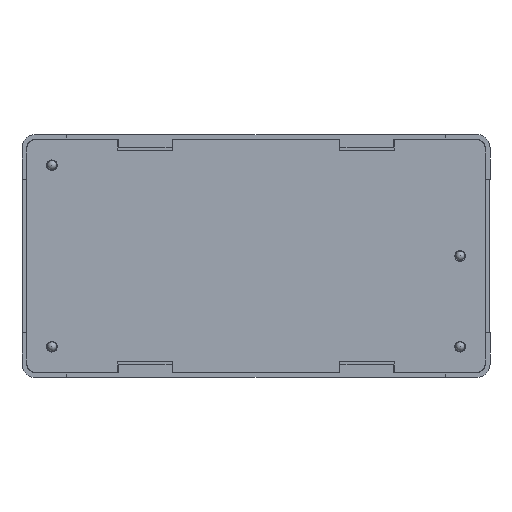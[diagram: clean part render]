
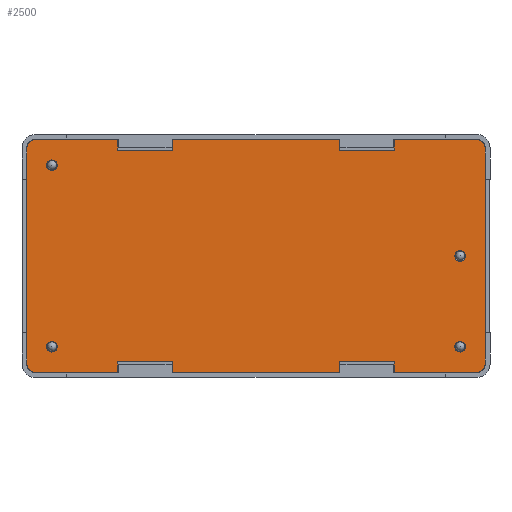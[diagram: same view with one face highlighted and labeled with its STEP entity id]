
A CAD part, top view. The second image highlights one B-rep face of the part: STEP entity #2500.
In plain terms, the highlighted planar face has unit normal (0, 0, 1).
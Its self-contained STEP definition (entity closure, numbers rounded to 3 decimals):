
#233=LINE('',#3896,#519);
#255=LINE('',#3949,#541);
#260=LINE('',#3962,#546);
#268=LINE('',#3979,#554);
#271=LINE('',#3984,#557);
#273=LINE('',#3988,#559);
#281=LINE('',#4005,#567);
#284=LINE('',#4010,#570);
#286=LINE('',#4014,#572);
#287=LINE('',#4016,#573);
#288=LINE('',#4018,#574);
#296=LINE('',#4035,#582);
#305=LINE('',#4052,#591);
#307=LINE('',#4056,#593);
#309=LINE('',#4060,#595);
#311=LINE('',#4064,#597);
#313=LINE('',#4068,#599);
#314=LINE('',#4070,#600);
#315=LINE('',#4072,#601);
#316=LINE('',#4074,#602);
#519=VECTOR('',#3208,24.1);
#541=VECTOR('',#3244,24.1);
#546=VECTOR('',#3259,9.15);
#554=VECTOR('',#3273,1.2);
#557=VECTOR('',#3278,6.2);
#559=VECTOR('',#3282,1.2);
#567=VECTOR('',#3296,1.2);
#570=VECTOR('',#3301,6.2);
#572=VECTOR('',#3305,1.2);
#573=VECTOR('',#3308,18.6);
#574=VECTOR('',#3311,9.15);
#582=VECTOR('',#3325,1.2);
#591=VECTOR('',#3340,1.2);
#593=VECTOR('',#3344,6.2);
#595=VECTOR('',#3348,1.2);
#597=VECTOR('',#3352,6.2);
#599=VECTOR('',#3356,1.2);
#600=VECTOR('',#3359,9.15);
#601=VECTOR('',#3362,9.15);
#602=VECTOR('',#3365,18.6);
#703=PLANE('',#2694);
#721=FACE_BOUND('',#1041,.T.);
#722=FACE_BOUND('',#1042,.T.);
#723=FACE_BOUND('',#1043,.T.);
#724=FACE_BOUND('',#1044,.T.);
#887=FACE_OUTER_BOUND('',#1040,.T.);
#1040=EDGE_LOOP('',(#2329,#2330,#2331,#2332,#2333,#2334,#2335,#2336,#2337,
#2338,#2339,#2340,#2341,#2342,#2343,#2344,#2345,#2346,#2347,#2348,#2349,
#2350,#2351,#2352));
#1041=EDGE_LOOP('',(#2353));
#1042=EDGE_LOOP('',(#2354));
#1043=EDGE_LOOP('',(#2355));
#1044=EDGE_LOOP('',(#2356));
#1080=CIRCLE('',#2643,0.6);
#1082=CIRCLE('',#2646,0.6);
#1084=CIRCLE('',#2649,0.6);
#1086=CIRCLE('',#2652,0.6);
#1087=CIRCLE('',#2654,1.);
#1092=CIRCLE('',#2662,1.);
#1093=CIRCLE('',#2665,1.);
#1094=CIRCLE('',#2667,1.);
#1248=VERTEX_POINT('',#3865);
#1250=VERTEX_POINT('',#3870);
#1252=VERTEX_POINT('',#3875);
#1254=VERTEX_POINT('',#3880);
#1255=VERTEX_POINT('',#3883);
#1256=VERTEX_POINT('',#3884);
#1260=VERTEX_POINT('',#3894);
#1282=VERTEX_POINT('',#3942);
#1283=VERTEX_POINT('',#3943);
#1284=VERTEX_POINT('',#3948);
#1285=VERTEX_POINT('',#3952);
#1286=VERTEX_POINT('',#3956);
#1287=VERTEX_POINT('',#3960);
#1292=VERTEX_POINT('',#3976);
#1293=VERTEX_POINT('',#3978);
#1294=VERTEX_POINT('',#3982);
#1295=VERTEX_POINT('',#3986);
#1300=VERTEX_POINT('',#4002);
#1301=VERTEX_POINT('',#4004);
#1302=VERTEX_POINT('',#4008);
#1303=VERTEX_POINT('',#4012);
#1308=VERTEX_POINT('',#4032);
#1309=VERTEX_POINT('',#4034);
#1314=VERTEX_POINT('',#4050);
#1315=VERTEX_POINT('',#4054);
#1316=VERTEX_POINT('',#4058);
#1317=VERTEX_POINT('',#4062);
#1318=VERTEX_POINT('',#4066);
#1556=EDGE_CURVE('',#1248,#1248,#1080,.T.);
#1558=EDGE_CURVE('',#1250,#1250,#1082,.T.);
#1560=EDGE_CURVE('',#1252,#1252,#1084,.T.);
#1562=EDGE_CURVE('',#1254,#1254,#1086,.T.);
#1563=EDGE_CURVE('',#1255,#1256,#1087,.T.);
#1569=EDGE_CURVE('',#1260,#1255,#233,.T.);
#1592=EDGE_CURVE('',#1282,#1283,#1092,.T.);
#1595=EDGE_CURVE('',#1283,#1284,#255,.T.);
#1597=EDGE_CURVE('',#1284,#1285,#1093,.T.);
#1599=EDGE_CURVE('',#1286,#1260,#1094,.T.);
#1602=EDGE_CURVE('',#1287,#1286,#260,.T.);
#1610=EDGE_CURVE('',#1293,#1292,#268,.T.);
#1613=EDGE_CURVE('',#1292,#1294,#271,.T.);
#1615=EDGE_CURVE('',#1294,#1295,#273,.T.);
#1623=EDGE_CURVE('',#1301,#1300,#281,.T.);
#1626=EDGE_CURVE('',#1300,#1302,#284,.T.);
#1628=EDGE_CURVE('',#1302,#1303,#286,.T.);
#1629=EDGE_CURVE('',#1301,#1295,#287,.T.);
#1630=EDGE_CURVE('',#1293,#1282,#288,.T.);
#1638=EDGE_CURVE('',#1309,#1308,#296,.T.);
#1647=EDGE_CURVE('',#1287,#1314,#305,.T.);
#1649=EDGE_CURVE('',#1314,#1315,#307,.T.);
#1651=EDGE_CURVE('',#1315,#1316,#309,.T.);
#1653=EDGE_CURVE('',#1308,#1317,#311,.T.);
#1655=EDGE_CURVE('',#1317,#1318,#313,.T.);
#1656=EDGE_CURVE('',#1285,#1318,#314,.T.);
#1657=EDGE_CURVE('',#1256,#1303,#315,.T.);
#1658=EDGE_CURVE('',#1309,#1316,#316,.T.);
#2329=ORIENTED_EDGE('',*,*,#1563,.F.);
#2330=ORIENTED_EDGE('',*,*,#1569,.F.);
#2331=ORIENTED_EDGE('',*,*,#1599,.F.);
#2332=ORIENTED_EDGE('',*,*,#1602,.F.);
#2333=ORIENTED_EDGE('',*,*,#1647,.T.);
#2334=ORIENTED_EDGE('',*,*,#1649,.T.);
#2335=ORIENTED_EDGE('',*,*,#1651,.T.);
#2336=ORIENTED_EDGE('',*,*,#1658,.F.);
#2337=ORIENTED_EDGE('',*,*,#1638,.T.);
#2338=ORIENTED_EDGE('',*,*,#1653,.T.);
#2339=ORIENTED_EDGE('',*,*,#1655,.T.);
#2340=ORIENTED_EDGE('',*,*,#1656,.F.);
#2341=ORIENTED_EDGE('',*,*,#1597,.F.);
#2342=ORIENTED_EDGE('',*,*,#1595,.F.);
#2343=ORIENTED_EDGE('',*,*,#1592,.F.);
#2344=ORIENTED_EDGE('',*,*,#1630,.F.);
#2345=ORIENTED_EDGE('',*,*,#1610,.T.);
#2346=ORIENTED_EDGE('',*,*,#1613,.T.);
#2347=ORIENTED_EDGE('',*,*,#1615,.T.);
#2348=ORIENTED_EDGE('',*,*,#1629,.F.);
#2349=ORIENTED_EDGE('',*,*,#1623,.T.);
#2350=ORIENTED_EDGE('',*,*,#1626,.T.);
#2351=ORIENTED_EDGE('',*,*,#1628,.T.);
#2352=ORIENTED_EDGE('',*,*,#1657,.F.);
#2353=ORIENTED_EDGE('',*,*,#1556,.T.);
#2354=ORIENTED_EDGE('',*,*,#1558,.T.);
#2355=ORIENTED_EDGE('',*,*,#1560,.T.);
#2356=ORIENTED_EDGE('',*,*,#1562,.T.);
#2500=ADVANCED_FACE('',(#887,#721,#722,#723,#724),#703,.T.);
#2643=AXIS2_PLACEMENT_3D('',#3866,#3176,#3177);
#2646=AXIS2_PLACEMENT_3D('',#3871,#3182,#3183);
#2649=AXIS2_PLACEMENT_3D('',#3876,#3188,#3189);
#2652=AXIS2_PLACEMENT_3D('',#3881,#3194,#3195);
#2654=AXIS2_PLACEMENT_3D('',#3885,#3198,#3199);
#2662=AXIS2_PLACEMENT_3D('',#3944,#3238,#3239);
#2665=AXIS2_PLACEMENT_3D('',#3953,#3248,#3249);
#2667=AXIS2_PLACEMENT_3D('',#3957,#3253,#3254);
#2694=AXIS2_PLACEMENT_3D('',#4075,#3366,#3367);
#3176=DIRECTION('center_axis',(0.,0.,-1.));
#3177=DIRECTION('ref_axis',(1.,0.,0.));
#3182=DIRECTION('center_axis',(0.,0.,-1.));
#3183=DIRECTION('ref_axis',(1.,0.,0.));
#3188=DIRECTION('center_axis',(0.,0.,-1.));
#3189=DIRECTION('ref_axis',(1.,0.,0.));
#3194=DIRECTION('center_axis',(0.,0.,-1.));
#3195=DIRECTION('ref_axis',(1.,0.,0.));
#3198=DIRECTION('center_axis',(0.,0.,-1.));
#3199=DIRECTION('ref_axis',(0.707,0.707,0.));
#3208=DIRECTION('',(1.,0.,0.));
#3238=DIRECTION('center_axis',(0.,0.,-1.));
#3239=DIRECTION('ref_axis',(0.707,-0.707,0.));
#3244=DIRECTION('',(-1.,0.,0.));
#3248=DIRECTION('center_axis',(0.,0.,-1.));
#3249=DIRECTION('ref_axis',(-0.707,-0.707,0.));
#3253=DIRECTION('center_axis',(0.,0.,-1.));
#3254=DIRECTION('ref_axis',(-0.707,0.707,0.));
#3259=DIRECTION('',(0.,1.,0.));
#3273=DIRECTION('',(-1.,0.,0.));
#3278=DIRECTION('',(0.,1.,0.));
#3282=DIRECTION('',(1.,0.,0.));
#3296=DIRECTION('',(-1.,0.,0.));
#3301=DIRECTION('',(0.,1.,0.));
#3305=DIRECTION('',(1.,0.,0.));
#3308=DIRECTION('',(0.,-1.,0.));
#3311=DIRECTION('',(0.,-1.,0.));
#3325=DIRECTION('',(1.,0.,0.));
#3340=DIRECTION('',(1.,0.,0.));
#3344=DIRECTION('',(0.,-1.,0.));
#3348=DIRECTION('',(-1.,0.,0.));
#3352=DIRECTION('',(0.,-1.,0.));
#3356=DIRECTION('',(-1.,0.,0.));
#3359=DIRECTION('',(0.,1.,0.));
#3362=DIRECTION('',(0.,-1.,0.));
#3365=DIRECTION('',(0.,1.,0.));
#3366=DIRECTION('center_axis',(0.,0.,1.));
#3367=DIRECTION('ref_axis',(1.,0.,0.));
#3865=CARTESIAN_POINT('',(0.6,22.86,1.));
#3866=CARTESIAN_POINT('Origin',(0.,22.86,1.));
#3870=CARTESIAN_POINT('',(-9.56,-22.86,1.));
#3871=CARTESIAN_POINT('Origin',(-10.16,-22.86,1.));
#3875=CARTESIAN_POINT('',(10.76,-22.86,1.));
#3876=CARTESIAN_POINT('Origin',(10.16,-22.86,1.));
#3880=CARTESIAN_POINT('',(10.76,22.86,1.));
#3881=CARTESIAN_POINT('Origin',(10.16,22.86,1.));
#3883=CARTESIAN_POINT('',(12.05,25.65,1.));
#3884=CARTESIAN_POINT('',(13.05,24.65,1.));
#3885=CARTESIAN_POINT('Origin',(12.05,24.65,1.));
#3894=CARTESIAN_POINT('',(-12.05,25.65,1.));
#3896=CARTESIAN_POINT('',(-13.05,25.65,1.));
#3942=CARTESIAN_POINT('',(13.05,-24.65,1.));
#3943=CARTESIAN_POINT('',(12.05,-25.65,1.));
#3944=CARTESIAN_POINT('Origin',(12.05,-24.65,1.));
#3948=CARTESIAN_POINT('',(-12.05,-25.65,1.));
#3949=CARTESIAN_POINT('',(13.05,-25.65,1.));
#3952=CARTESIAN_POINT('',(-13.05,-24.65,1.));
#3953=CARTESIAN_POINT('Origin',(-12.05,-24.65,1.));
#3956=CARTESIAN_POINT('',(-13.05,24.65,1.));
#3957=CARTESIAN_POINT('Origin',(-12.05,24.65,1.));
#3960=CARTESIAN_POINT('',(-13.05,15.5,1.));
#3962=CARTESIAN_POINT('',(-13.05,-25.65,1.));
#3976=CARTESIAN_POINT('',(11.85,-15.5,1.));
#3978=CARTESIAN_POINT('',(13.05,-15.5,1.));
#3979=CARTESIAN_POINT('',(6.525,-15.5,1.));
#3982=CARTESIAN_POINT('',(11.85,-9.3,1.));
#3984=CARTESIAN_POINT('',(11.85,-7.75,1.));
#3986=CARTESIAN_POINT('',(13.05,-9.3,1.));
#3988=CARTESIAN_POINT('',(5.925,-9.3,1.));
#4002=CARTESIAN_POINT('',(11.85,9.3,1.));
#4004=CARTESIAN_POINT('',(13.05,9.3,1.));
#4005=CARTESIAN_POINT('',(6.525,9.3,1.));
#4008=CARTESIAN_POINT('',(11.85,15.5,1.));
#4010=CARTESIAN_POINT('',(11.85,4.65,1.));
#4012=CARTESIAN_POINT('',(13.05,15.5,1.));
#4014=CARTESIAN_POINT('',(5.925,15.5,1.));
#4016=CARTESIAN_POINT('',(13.05,25.65,1.));
#4018=CARTESIAN_POINT('',(13.05,25.65,1.));
#4032=CARTESIAN_POINT('',(-11.85,-9.3,1.));
#4034=CARTESIAN_POINT('',(-13.05,-9.3,1.));
#4035=CARTESIAN_POINT('',(-5.925,-9.3,1.));
#4050=CARTESIAN_POINT('',(-11.85,15.5,1.));
#4052=CARTESIAN_POINT('',(-5.925,15.5,1.));
#4054=CARTESIAN_POINT('',(-11.85,9.3,1.));
#4056=CARTESIAN_POINT('',(-11.85,4.65,1.));
#4058=CARTESIAN_POINT('',(-13.05,9.3,1.));
#4060=CARTESIAN_POINT('',(-6.525,9.3,1.));
#4062=CARTESIAN_POINT('',(-11.85,-15.5,1.));
#4064=CARTESIAN_POINT('',(-11.85,-7.75,1.));
#4066=CARTESIAN_POINT('',(-13.05,-15.5,1.));
#4068=CARTESIAN_POINT('',(-6.525,-15.5,1.));
#4070=CARTESIAN_POINT('',(-13.05,-25.65,1.));
#4072=CARTESIAN_POINT('',(13.05,25.65,1.));
#4074=CARTESIAN_POINT('',(-13.05,-25.65,1.));
#4075=CARTESIAN_POINT('Origin',(0.,0.,1.));
